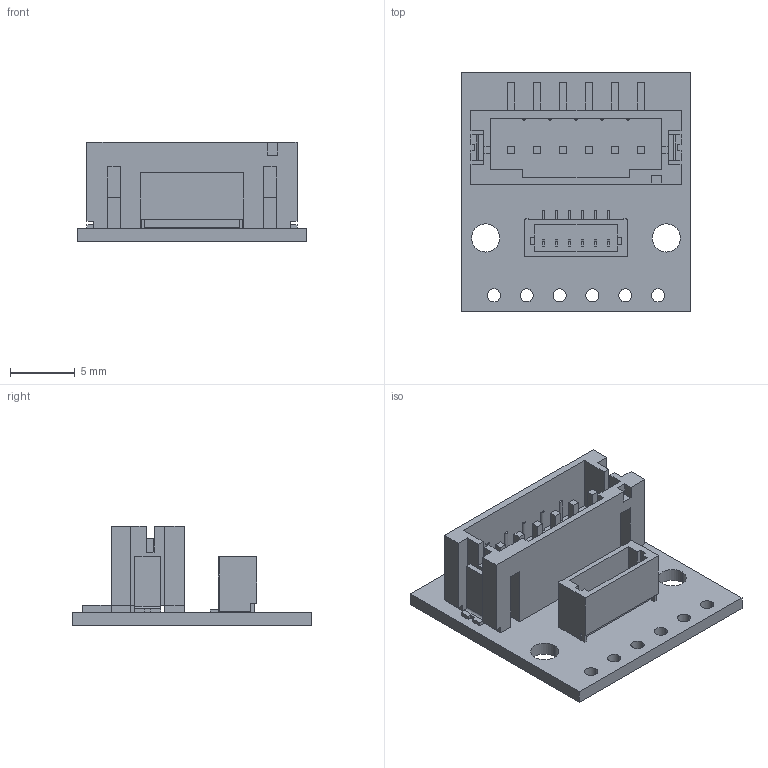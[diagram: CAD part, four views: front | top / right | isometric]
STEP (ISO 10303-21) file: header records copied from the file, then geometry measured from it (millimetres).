
FILE_DESCRIPTION (( 'STEP AP214' ), '1' );
FILE_NAME ('con12a_top_entry.STEP', '2025-08-19T02:20:32', ( '' ), ( '' ), 'SwSTEP 2.0', 'SolidWorks 2025', '' );
FILE_SCHEMA (( 'AUTOMOTIVE_DESIGN' ));
Length unit declared in the file: millimetre
Products named in the file (1): con12a_top_entry
Bounding box: 17.78 x 18.54 x 7.69 mm (x, y, z)
Volume: 685.6 mm3; surface area: 1637.7 mm2
Topology: 1 solids, 1 shells, 650 faces, 1822 edges, 1208 vertices
Faces by surface type: plane 450, bspline 175, cylinder 25
Entity records: 34431 total; most frequent: CARTESIAN_POINT 11560, ORIENTED_EDGE 3644, DIRECTION 2474, EDGE_CURVE 1822, LINE 1422, VECTOR 1422, VERTEX_POINT 1208, EDGE_LOOP 738
